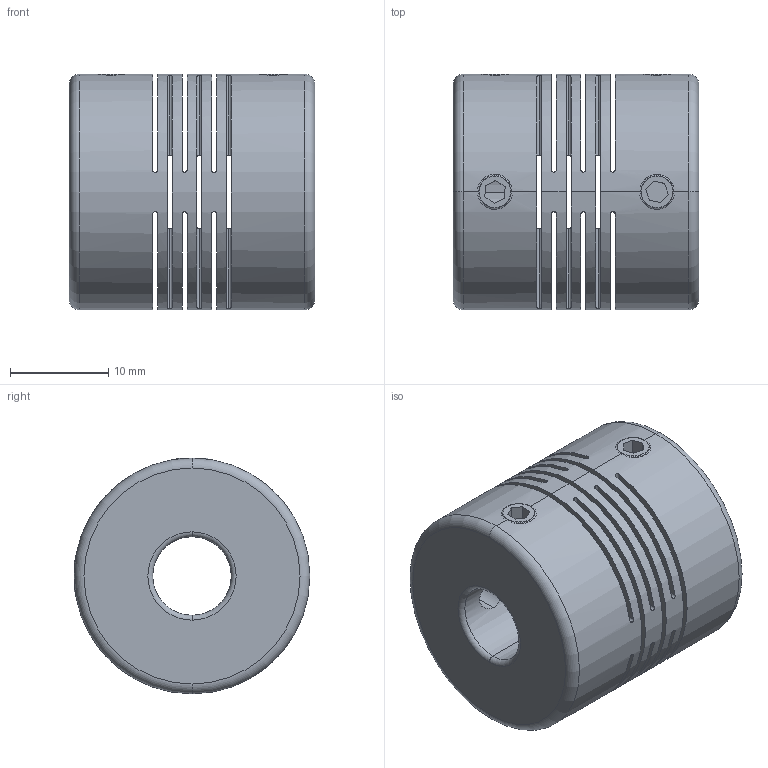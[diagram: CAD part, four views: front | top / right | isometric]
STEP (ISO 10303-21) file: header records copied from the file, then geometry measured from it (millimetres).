
FILE_DESCRIPTION (( 'STEP AP203' ), '1' );
FILE_NAME ('FAMS24-8x8.STEP', '2013-12-04T10:21:34', ( '123' ), ( '' ), 'SwSTEP 2.0', 'SolidWorks 2013', '' );
FILE_SCHEMA (( 'CONFIG_CONTROL_DESIGN' ));
Length unit declared in the file: millimetre
Products named in the file (1): FAMS24-8x8
Bounding box: 25 x 24 x 24 mm (x, y, z)
Surface area: 7246 mm2 (no closed solid volume)
Topology: 0 solids, 6 shells, 133 faces, 398 edges, 260 vertices
Faces by surface type: cylinder 62, plane 53, cone 10, torus 8
Entity records: 5190 total; most frequent: CARTESIAN_POINT 1704, ORIENTED_EDGE 694, DIRECTION 662, EDGE_CURVE 398, VERTEX_POINT 260, AXIS2_PLACEMENT_3D 242, LINE 178, VECTOR 178
